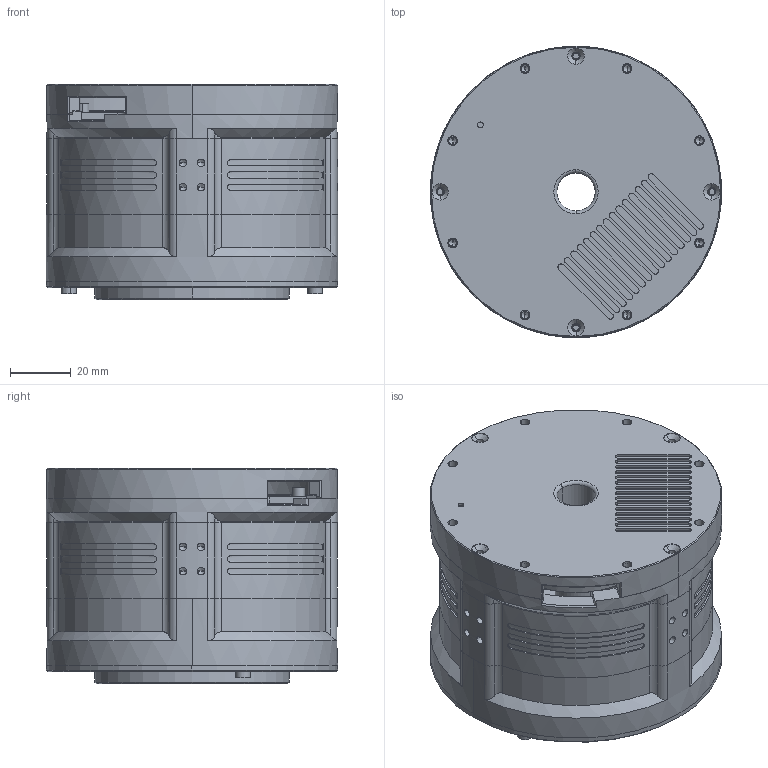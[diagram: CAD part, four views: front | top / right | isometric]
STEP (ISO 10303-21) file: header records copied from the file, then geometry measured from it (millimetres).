
FILE_DESCRIPTION (( 'STEP AP203' ), '1' );
FILE_NAME ('RMD-X8-P20-150-E-03 俋夤芞.STEP', '2026-05-21T02:39:18', ( '' ), ( '' ), 'SwSTEP 2.0', 'SolidWorks 2020', '' );
FILE_SCHEMA (( 'CONFIG_CONTROL_DESIGN' ));
Length unit declared in the file: millimetre
Products named in the file (13): M2X4; 錨璃1^X8-P20-150 踢試唳; M3X10; 隅弇种杶_Default<偌樓馱>; 怀堤楊擘; 8MT.013.216-傷裔 A0_Default<偌樓馱>; 媼晤粣; RMD-X8-P20-150-E-03 俋夤芞; 錨璃2^X8-P20-150 踢試唳; 8MT.013.176-驱动器后盖 A0_Default<按加工>; 8MT.034.069-拸遺儂釱 A2; 熬厒儂累_Default<偌樓馱>; 楊擘裔啣
Assembly tree (14 placements, depth 2):
  錨璃1^X8-P20-150 踢試唳
  RMD-X8-P20-150-E-03 俋夤芞
    熬厒儂累_Default<偌樓馱>
    媼晤粣
    怀堤楊擘
    楊擘裔啣
    隅弇种杶_Default<偌樓馱>  x2
    M2X4  x2
    M3X10  x3
    8MT.013.216-傷裔 A0_Default<偌樓馱>
    8MT.013.176-驱动器后盖 A0_Default<按加工>
    8MT.034.069-拸遺儂釱 A2
  錨璃2^X8-P20-150 踢試唳
Bounding box: 96 x 96 x 71 mm (x, y, z)
Volume: 124168.9 mm3; surface area: 118335.5 mm2
Topology: 15 solids, 15 shells, 1483 faces, 3793 edges, 2344 vertices
Faces by surface type: cylinder 882, plane 299, cone 268, torus 24, bspline 10
Entity records: 45765 total; most frequent: CARTESIAN_POINT 9550, DIRECTION 7866, ORIENTED_EDGE 6932, EDGE_CURVE 3466, AXIS2_PLACEMENT_3D 3247, VERTEX_POINT 2245, CIRCLE 1836, EDGE_LOOP 1701
